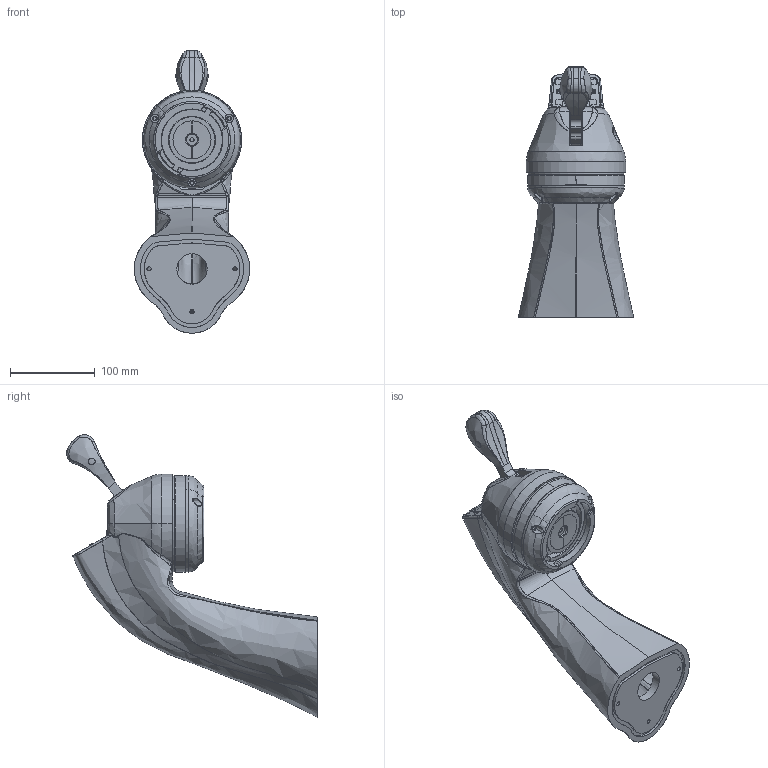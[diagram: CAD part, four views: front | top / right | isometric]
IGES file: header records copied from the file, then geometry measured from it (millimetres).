
Start section: SolidWorks IGES file using analytic representation for surfaces
Global section: file name: Z:\TD\DOCUMENTATION\Modelli 3D estetici x clienti\MODBAR EP\ESPRESSO ES\LM0013838_MODBAR-EP_ESPRESSO_TAP.IGS; native system: SolidWorks 2017; preprocessor: SolidWorks 2017; author: Service3D; date: 180405.144153; units: millimetre
Bounding box: 136.68 x 296.39 x 334.03 mm (x, y, z)
Surface area: 325804.6 mm2 (no closed solid volume)
Topology: 0 solids, 0 shells, 1008 faces, 16497 edges, 16458 vertices
Faces by surface type: revolution 558, bspline 450
